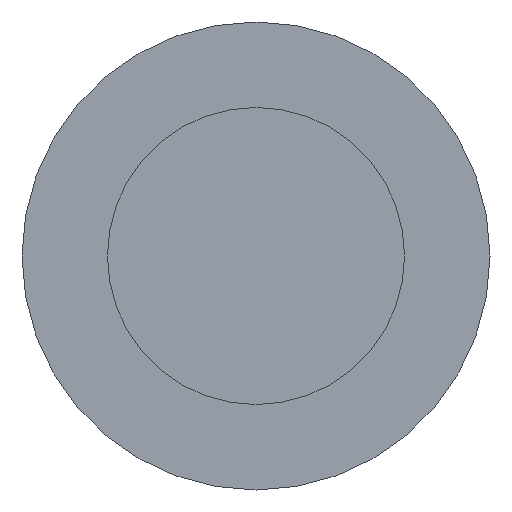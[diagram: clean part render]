
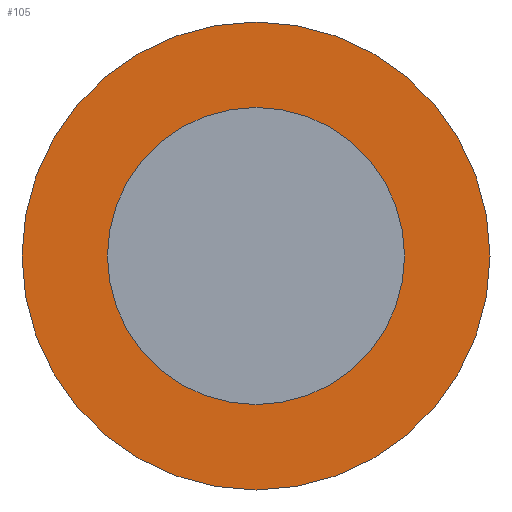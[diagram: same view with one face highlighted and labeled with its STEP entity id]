
A CAD part, front view. The second image highlights one B-rep face of the part: STEP entity #105.
In plain terms, the highlighted planar face has unit normal (0, -1, 0).
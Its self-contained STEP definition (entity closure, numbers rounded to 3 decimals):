
#22 = VERTEX_POINT('',#23);
#23 = CARTESIAN_POINT('',(64.,61.2,-201.));
#32 = CYLINDRICAL_SURFACE('',#33,5.);
#33 = AXIS2_PLACEMENT_3D('',#34,#35,#36);
#34 = CARTESIAN_POINT('',(59.,61.2,-201.));
#35 = DIRECTION('',(0.,-1.,-0.));
#36 = DIRECTION('',(1.,0.,0.));
#79 = EDGE_CURVE('',#22,#22,#80,.T.);
#80 = SURFACE_CURVE('',#81,(#86,#93),.PCURVE_S1.);
#81 = CIRCLE('',#82,5.);
#82 = AXIS2_PLACEMENT_3D('',#83,#84,#85);
#83 = CARTESIAN_POINT('',(59.,61.2,-201.));
#84 = DIRECTION('',(-0.,1.,0.));
#85 = DIRECTION('',(1.,0.,0.));
#86 = PCURVE('',#32,#87);
#87 = DEFINITIONAL_REPRESENTATION('',(#88),#92);
#88 = LINE('',#89,#90);
#89 = CARTESIAN_POINT('',(-0.,0.));
#90 = VECTOR('',#91,1.);
#91 = DIRECTION('',(-1.,0.));
#92 = ( GEOMETRIC_REPRESENTATION_CONTEXT(2) 
PARAMETRIC_REPRESENTATION_CONTEXT() REPRESENTATION_CONTEXT('2D SPACE',''
  ) );
#93 = PCURVE('',#94,#99);
#94 = PLANE('',#95);
#95 = AXIS2_PLACEMENT_3D('',#96,#97,#98);
#96 = CARTESIAN_POINT('',(59.,61.2,-201.));
#97 = DIRECTION('',(0.,1.,0.));
#98 = DIRECTION('',(0.,-0.,1.));
#99 = DEFINITIONAL_REPRESENTATION('',(#100),#104);
#100 = CIRCLE('',#101,5.);
#101 = AXIS2_PLACEMENT_2D('',#102,#103);
#102 = CARTESIAN_POINT('',(0.,0.));
#103 = DIRECTION('',(0.,1.));
#104 = ( GEOMETRIC_REPRESENTATION_CONTEXT(2) 
PARAMETRIC_REPRESENTATION_CONTEXT() REPRESENTATION_CONTEXT('2D SPACE',''
  ) );
#105 = ADVANCED_FACE('',(#106,#109),#94,.F.);
#106 = FACE_BOUND('',#107,.F.);
#107 = EDGE_LOOP('',(#108));
#108 = ORIENTED_EDGE('',*,*,#79,.T.);
#109 = FACE_BOUND('',#110,.F.);
#110 = EDGE_LOOP('',(#111));
#111 = ORIENTED_EDGE('',*,*,#112,.F.);
#112 = EDGE_CURVE('',#113,#113,#115,.T.);
#113 = VERTEX_POINT('',#114);
#114 = CARTESIAN_POINT('',(62.175,61.2,-201.));
#115 = SURFACE_CURVE('',#116,(#121,#128),.PCURVE_S1.);
#116 = CIRCLE('',#117,3.175);
#117 = AXIS2_PLACEMENT_3D('',#118,#119,#120);
#118 = CARTESIAN_POINT('',(59.,61.2,-201.));
#119 = DIRECTION('',(-0.,1.,0.));
#120 = DIRECTION('',(1.,0.,0.));
#121 = PCURVE('',#94,#122);
#122 = DEFINITIONAL_REPRESENTATION('',(#123),#127);
#123 = CIRCLE('',#124,3.175);
#124 = AXIS2_PLACEMENT_2D('',#125,#126);
#125 = CARTESIAN_POINT('',(0.,0.));
#126 = DIRECTION('',(0.,1.));
#127 = ( GEOMETRIC_REPRESENTATION_CONTEXT(2) 
PARAMETRIC_REPRESENTATION_CONTEXT() REPRESENTATION_CONTEXT('2D SPACE',''
  ) );
#128 = PCURVE('',#129,#134);
#129 = CYLINDRICAL_SURFACE('',#130,3.175);
#130 = AXIS2_PLACEMENT_3D('',#131,#132,#133);
#131 = CARTESIAN_POINT('',(59.,5.2,-201.));
#132 = DIRECTION('',(0.,-1.,-0.));
#133 = DIRECTION('',(1.,0.,0.));
#134 = DEFINITIONAL_REPRESENTATION('',(#135),#139);
#135 = LINE('',#136,#137);
#136 = CARTESIAN_POINT('',(-0.,-56.));
#137 = VECTOR('',#138,1.);
#138 = DIRECTION('',(-1.,0.));
#139 = ( GEOMETRIC_REPRESENTATION_CONTEXT(2) 
PARAMETRIC_REPRESENTATION_CONTEXT() REPRESENTATION_CONTEXT('2D SPACE',''
  ) );
